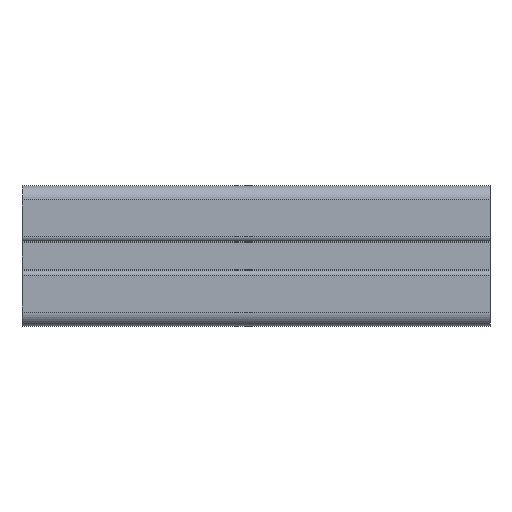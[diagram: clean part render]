
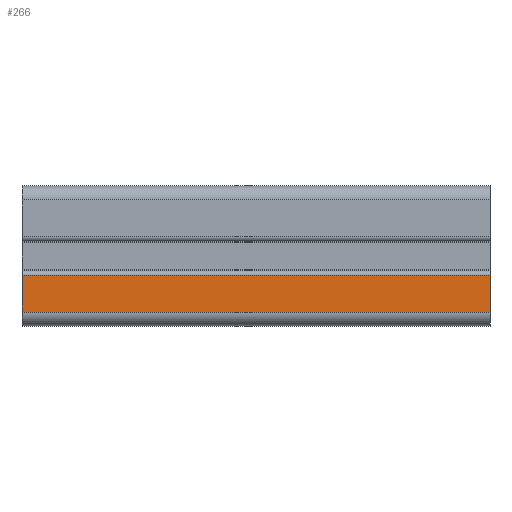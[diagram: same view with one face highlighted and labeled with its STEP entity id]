
A CAD part, left-side view. The second image highlights one B-rep face of the part: STEP entity #266.
In plain terms, the highlighted planar face has unit normal (-1, 0, 0).
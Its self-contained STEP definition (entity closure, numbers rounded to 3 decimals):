
#83 = CARTESIAN_POINT ( 'NONE',  ( -15., 50., -12. ) ) ;
#239 = VERTEX_POINT ( 'NONE', #4291 ) ;
#266 = ADVANCED_FACE ( 'NONE', ( #5098 ), #3808, .F. ) ;
#419 = VECTOR ( 'NONE', #3423, 1000. ) ;
#613 = VECTOR ( 'NONE', #2437, 1000. ) ;
#692 = EDGE_CURVE ( 'NONE', #1912, #4204, #3800, .T. ) ;
#975 = DIRECTION ( 'NONE',  ( 0., 0., -1. ) ) ;
#1022 = CARTESIAN_POINT ( 'NONE',  ( -15., -50., -12. ) ) ;
#1241 = LINE ( 'NONE', #2847, #613 ) ;
#1382 = DIRECTION ( 'NONE',  ( 1., 0., 0. ) ) ;
#1408 = LINE ( 'NONE', #2529, #3031 ) ;
#1453 = CARTESIAN_POINT ( 'NONE',  ( -15., -50., -4.1 ) ) ;
#1877 = VERTEX_POINT ( 'NONE', #4090 ) ;
#1912 = VERTEX_POINT ( 'NONE', #1022 ) ;
#2184 = DIRECTION ( 'NONE',  ( 0., -1., 0. ) ) ;
#2326 = ORIENTED_EDGE ( 'NONE', *, *, #692, .T. ) ;
#2344 = EDGE_CURVE ( 'NONE', #239, #1877, #1408, .T. ) ;
#2437 = DIRECTION ( 'NONE',  ( 0., -1., 0. ) ) ;
#2529 = CARTESIAN_POINT ( 'NONE',  ( -15., 50., -12. ) ) ;
#2775 = VECTOR ( 'NONE', #2184, 1000. ) ;
#2847 = CARTESIAN_POINT ( 'NONE',  ( -15., 50., -12. ) ) ;
#2922 = LINE ( 'NONE', #3740, #2775 ) ;
#2930 = AXIS2_PLACEMENT_3D ( 'NONE', #83, #1382, #975 ) ;
#3031 = VECTOR ( 'NONE', #3784, 1000. ) ;
#3068 = ORIENTED_EDGE ( 'NONE', *, *, #3108, .T. ) ;
#3108 = EDGE_CURVE ( 'NONE', #239, #1912, #1241, .T. ) ;
#3423 = DIRECTION ( 'NONE',  ( 0., 0., 1. ) ) ;
#3740 = CARTESIAN_POINT ( 'NONE',  ( -15., 50., -4.1 ) ) ;
#3784 = DIRECTION ( 'NONE',  ( 0., 0., 1. ) ) ;
#3800 = LINE ( 'NONE', #4257, #419 ) ;
#3808 = PLANE ( 'NONE',  #2930 ) ;
#4090 = CARTESIAN_POINT ( 'NONE',  ( -15., 50., -4.1 ) ) ;
#4204 = VERTEX_POINT ( 'NONE', #1453 ) ;
#4257 = CARTESIAN_POINT ( 'NONE',  ( -15., -50., -12. ) ) ;
#4291 = CARTESIAN_POINT ( 'NONE',  ( -15., 50., -12. ) ) ;
#4560 = EDGE_LOOP ( 'NONE', ( #2326, #5215, #4976, #3068 ) ) ;
#4893 = EDGE_CURVE ( 'NONE', #1877, #4204, #2922, .T. ) ;
#4976 = ORIENTED_EDGE ( 'NONE', *, *, #2344, .F. ) ;
#5098 = FACE_OUTER_BOUND ( 'NONE', #4560, .T. ) ;
#5215 = ORIENTED_EDGE ( 'NONE', *, *, #4893, .F. ) ;
